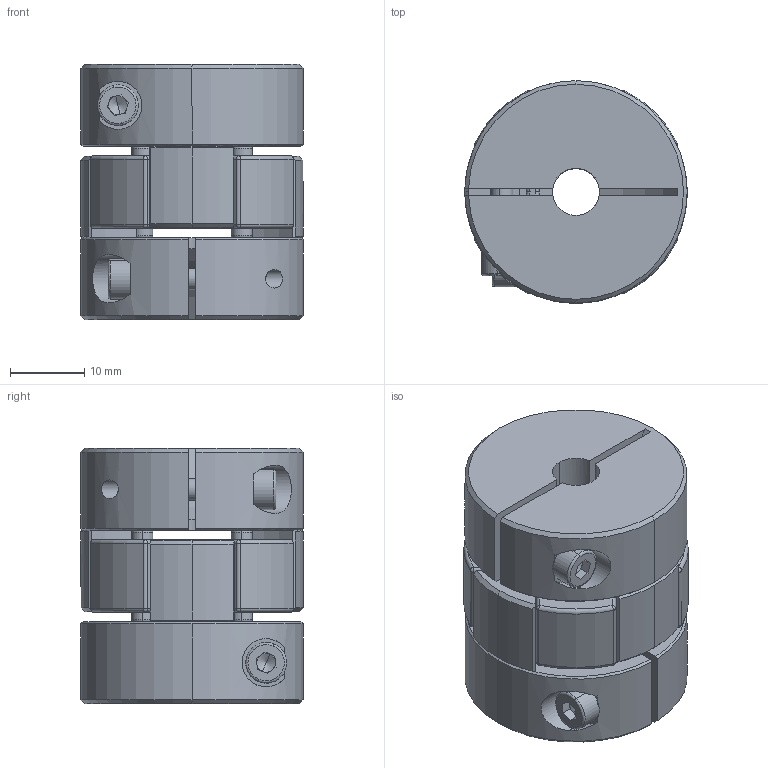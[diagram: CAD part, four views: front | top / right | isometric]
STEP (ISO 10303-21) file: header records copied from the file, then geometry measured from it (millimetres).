
FILE_DESCRIPTION (( 'STEP AP203' ), '1' );
FILE_NAME ('ACOPLAMENTO ADS-10.STEP', '2021-11-04T11:44:26', ( '' ), ( '' ), 'SwSTEP 2.0', 'SolidWorks 2019', '' );
FILE_SCHEMA (( 'CONFIG_CONTROL_DESIGN' ));
Length unit declared in the file: millimetre
Products named in the file (4): DIN 912_M3x12; CORPO ADS 10; ELASTÔMERO_ADS 10; ACOPLAMENTO ADS-10
Assembly tree (5 placements, depth 2):
  ACOPLAMENTO ADS-10
    CORPO ADS 10  x2
    ELASTÔMERO_ADS 10
    DIN 912_M3x12  x2
Bounding box: 30 x 30 x 34.4 mm (x, y, z)
Volume: 20643 mm3; surface area: 10230.5 mm2
Topology: 5 solids, 5 shells, 271 faces, 631 edges, 370 vertices
Faces by surface type: cylinder 97, plane 64, torus 50, cone 32, sphere 20, bspline 8
Entity records: 6059 total; most frequent: CARTESIAN_POINT 1159, DIRECTION 1079, ORIENTED_EDGE 854, AXIS2_PLACEMENT_3D 479, EDGE_CURVE 427, CIRCLE 280, VERTEX_POINT 247, EDGE_LOOP 210
